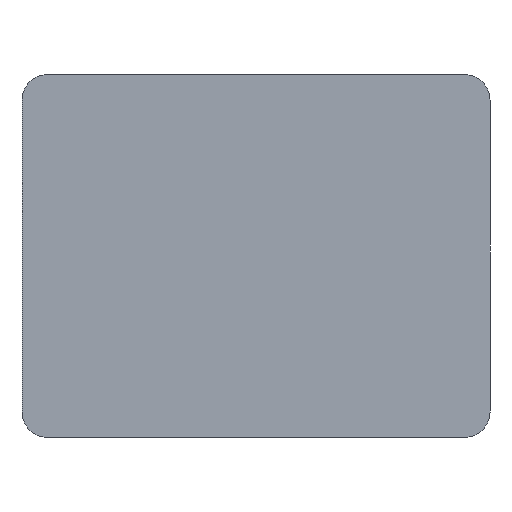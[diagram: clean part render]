
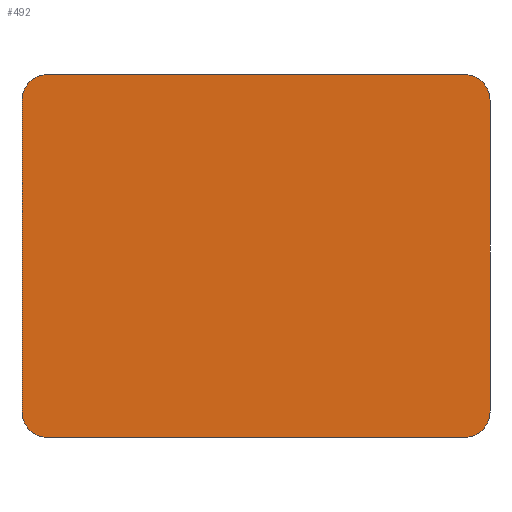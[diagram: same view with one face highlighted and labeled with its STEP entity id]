
A CAD part, front view. The second image highlights one B-rep face of the part: STEP entity #492.
In plain terms, the highlighted planar face has unit normal (0, -1, 0).
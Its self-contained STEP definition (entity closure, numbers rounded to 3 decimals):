
#32=CIRCLE('',#546,6.);
#33=CIRCLE('',#547,6.);
#34=CIRCLE('',#548,6.);
#35=CIRCLE('',#549,6.);
#94=ORIENTED_EDGE('',*,*,#210,.F.);
#95=ORIENTED_EDGE('',*,*,#216,.T.);
#96=ORIENTED_EDGE('',*,*,#205,.F.);
#97=ORIENTED_EDGE('',*,*,#217,.T.);
#98=ORIENTED_EDGE('',*,*,#202,.T.);
#99=ORIENTED_EDGE('',*,*,#218,.T.);
#100=ORIENTED_EDGE('',*,*,#212,.T.);
#101=ORIENTED_EDGE('',*,*,#219,.T.);
#202=EDGE_CURVE('',#266,#267,#310,.T.);
#205=EDGE_CURVE('',#268,#269,#313,.T.);
#210=EDGE_CURVE('',#270,#271,#317,.T.);
#212=EDGE_CURVE('',#272,#273,#319,.T.);
#216=EDGE_CURVE('',#270,#269,#32,.F.);
#217=EDGE_CURVE('',#268,#266,#33,.F.);
#218=EDGE_CURVE('',#267,#272,#34,.F.);
#219=EDGE_CURVE('',#273,#271,#35,.F.);
#266=VERTEX_POINT('',#802);
#267=VERTEX_POINT('',#803);
#268=VERTEX_POINT('',#808);
#269=VERTEX_POINT('',#809);
#270=VERTEX_POINT('',#815);
#271=VERTEX_POINT('',#817);
#272=VERTEX_POINT('',#821);
#273=VERTEX_POINT('',#822);
#310=LINE('',#801,#346);
#313=LINE('',#807,#349);
#317=LINE('',#816,#353);
#319=LINE('',#820,#355);
#346=VECTOR('',#627,1000.);
#349=VECTOR('',#632,1000.);
#353=VECTOR('',#640,1000.);
#355=VECTOR('',#644,1000.);
#372=EDGE_LOOP('',(#94,#95,#96,#97,#98,#99,#100,#101));
#422=FACE_BOUND('',#372,.T.);
#472=PLANE('',#545);
#492=ADVANCED_FACE('',(#422),#472,.F.);
#545=AXIS2_PLACEMENT_3D('',#826,#649,#650);
#546=AXIS2_PLACEMENT_3D('',#827,#651,#652);
#547=AXIS2_PLACEMENT_3D('',#828,#653,#654);
#548=AXIS2_PLACEMENT_3D('',#829,#655,#656);
#549=AXIS2_PLACEMENT_3D('',#830,#657,#658);
#627=DIRECTION('',(-1.,0.,0.));
#632=DIRECTION('',(0.,0.,-1.));
#640=DIRECTION('',(-1.,0.,0.));
#644=DIRECTION('',(0.,0.,-1.));
#649=DIRECTION('',(0.,1.,0.));
#650=DIRECTION('',(1.,0.,0.));
#651=DIRECTION('',(0.,1.,0.));
#652=DIRECTION('',(1.,0.,0.));
#653=DIRECTION('',(0.,1.,0.));
#654=DIRECTION('',(1.,0.,0.));
#655=DIRECTION('',(0.,1.,0.));
#656=DIRECTION('',(1.,0.,0.));
#657=DIRECTION('',(0.,1.,0.));
#658=DIRECTION('',(1.,0.,0.));
#801=CARTESIAN_POINT('',(0.,0.,43.));
#802=CARTESIAN_POINT('',(49.5,0.,43.));
#803=CARTESIAN_POINT('',(-49.5,0.,43.));
#807=CARTESIAN_POINT('',(55.5,0.,0.));
#808=CARTESIAN_POINT('',(55.5,0.,37.));
#809=CARTESIAN_POINT('',(55.5,0.,-37.));
#815=CARTESIAN_POINT('',(49.5,0.,-43.));
#816=CARTESIAN_POINT('',(0.,0.,-43.));
#817=CARTESIAN_POINT('',(-49.5,0.,-43.));
#820=CARTESIAN_POINT('',(-55.5,0.,0.));
#821=CARTESIAN_POINT('',(-55.5,0.,37.));
#822=CARTESIAN_POINT('',(-55.5,0.,-37.));
#826=CARTESIAN_POINT('',(0.,0.,0.));
#827=CARTESIAN_POINT('',(49.5,0.,-37.));
#828=CARTESIAN_POINT('',(49.5,0.,37.));
#829=CARTESIAN_POINT('',(-49.5,0.,37.));
#830=CARTESIAN_POINT('',(-49.5,0.,-37.));
